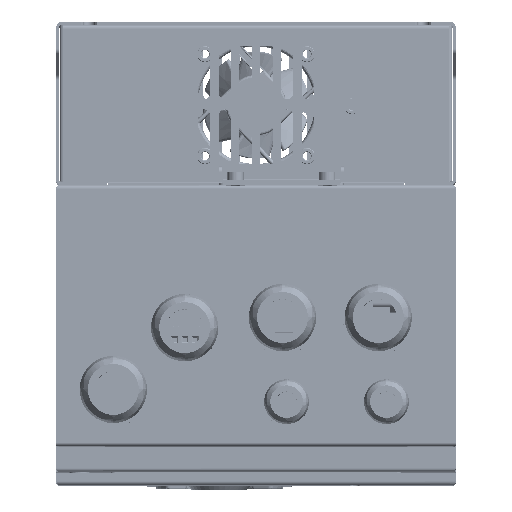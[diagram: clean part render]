
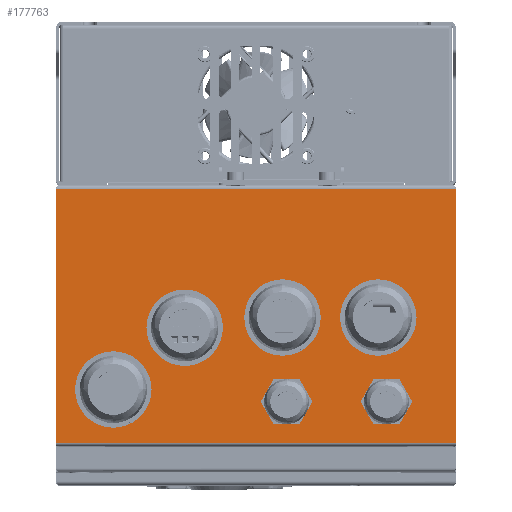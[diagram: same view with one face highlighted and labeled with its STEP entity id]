
A CAD part, top view. The second image highlights one B-rep face of the part: STEP entity #177763.
In plain terms, the highlighted planar face has unit normal (0, 0, 1) as drawn and (-1, 0, 0) by its records, which use the part's own axes.
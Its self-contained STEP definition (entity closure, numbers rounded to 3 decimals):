
#171769=CARTESIAN_POINT('',(-189.,1.7,-98.));
#171771=DIRECTION('',(0.,0.,1.));
#171772=VECTOR('',#171771,196.);
#171773=CARTESIAN_POINT('',(-189.,1.7,-98.));
#171774=LINE('',#171773,#171772);
#171775=CARTESIAN_POINT('',(-189.,1.7,98.));
#172211=DIRECTION('',(0.,0.,-1.));
#172212=VECTOR('',#172211,196.);
#172213=CARTESIAN_POINT('',(-189.,126.3,98.));
#172214=LINE('',#172213,#172212);
#172215=CARTESIAN_POINT('',(-189.,106.3,-15.));
#172216=DIRECTION('',(-1.,0.,0.));
#172217=DIRECTION('',(0.,0.,-1.));
#172218=AXIS2_PLACEMENT_3D('',#172215,#172216,#172217);
#172220=CARTESIAN_POINT('',(-189.,106.3,-15.));
#172221=DIRECTION('',(-1.,0.,0.));
#172222=DIRECTION('',(0.,0.,1.));
#172223=AXIS2_PLACEMENT_3D('',#172220,#172221,#172222);
#172225=CARTESIAN_POINT('',(-189.,106.3,-64.));
#172226=DIRECTION('',(-1.,0.,0.));
#172227=DIRECTION('',(0.,0.,-1.));
#172228=AXIS2_PLACEMENT_3D('',#172225,#172226,#172227);
#172230=CARTESIAN_POINT('',(-189.,106.3,-64.));
#172231=DIRECTION('',(-1.,0.,0.));
#172232=DIRECTION('',(0.,0.,1.));
#172233=AXIS2_PLACEMENT_3D('',#172230,#172231,#172232);
#172235=CARTESIAN_POINT('',(-189.,100.3,70.));
#172236=DIRECTION('',(-1.,0.,0.));
#172237=DIRECTION('',(0.,0.,-1.));
#172238=AXIS2_PLACEMENT_3D('',#172235,#172236,#172237);
#172240=CARTESIAN_POINT('',(-189.,100.3,70.));
#172241=DIRECTION('',(-1.,0.,0.));
#172242=DIRECTION('',(0.,0.,1.));
#172243=AXIS2_PLACEMENT_3D('',#172240,#172241,#172242);
#172245=CARTESIAN_POINT('',(-189.,65.,-13.));
#172246=DIRECTION('',(-1.,0.,0.));
#172247=DIRECTION('',(0.,0.,-1.));
#172248=AXIS2_PLACEMENT_3D('',#172245,#172246,#172247);
#172250=CARTESIAN_POINT('',(-189.,65.,-13.));
#172251=DIRECTION('',(-1.,0.,0.));
#172252=DIRECTION('',(0.,0.,1.));
#172253=AXIS2_PLACEMENT_3D('',#172250,#172251,#172252);
#172255=CARTESIAN_POINT('',(-189.,65.,-60.));
#172256=DIRECTION('',(-1.,0.,0.));
#172257=DIRECTION('',(0.,0.,-1.));
#172258=AXIS2_PLACEMENT_3D('',#172255,#172256,#172257);
#172260=CARTESIAN_POINT('',(-189.,65.,-60.));
#172261=DIRECTION('',(-1.,0.,0.));
#172262=DIRECTION('',(0.,0.,1.));
#172263=AXIS2_PLACEMENT_3D('',#172260,#172261,#172262);
#172265=CARTESIAN_POINT('',(-189.,70.,35.));
#172266=DIRECTION('',(-1.,0.,0.));
#172267=DIRECTION('',(0.,0.,-1.));
#172268=AXIS2_PLACEMENT_3D('',#172265,#172266,#172267);
#172270=CARTESIAN_POINT('',(-189.,70.,35.));
#172271=DIRECTION('',(-1.,0.,0.));
#172272=DIRECTION('',(0.,0.,1.));
#172273=AXIS2_PLACEMENT_3D('',#172270,#172271,#172272);
#172275=DIRECTION('',(0.,-1.,0.));
#172276=VECTOR('',#172275,124.6);
#172277=CARTESIAN_POINT('',(-189.,126.3,-98.));
#172278=LINE('',#172277,#172276);
#172305=DIRECTION('',(0.,1.,0.));
#172306=VECTOR('',#172305,124.6);
#172307=CARTESIAN_POINT('',(-189.,1.7,98.));
#172308=LINE('',#172307,#172306);
#175203=VERTEX_POINT('',#171775);
#175208=VERTEX_POINT('',#171769);
#175330=CARTESIAN_POINT('',(-189.,126.3,98.));
#175331=VERTEX_POINT('',#175330);
#175332=CARTESIAN_POINT('',(-189.,126.3,-98.));
#175333=VERTEX_POINT('',#175332);
#175334=CARTESIAN_POINT('',(-189.,106.3,-23.25));
#175335=CARTESIAN_POINT('',(-189.,106.3,-6.75));
#175336=VERTEX_POINT('',#175334);
#175337=VERTEX_POINT('',#175335);
#175338=CARTESIAN_POINT('',(-189.,106.3,-72.25));
#175339=CARTESIAN_POINT('',(-189.,106.3,-55.75));
#175340=VERTEX_POINT('',#175338);
#175341=VERTEX_POINT('',#175339);
#175342=CARTESIAN_POINT('',(-189.,100.3,57.25));
#175343=CARTESIAN_POINT('',(-189.,100.3,82.75));
#175344=VERTEX_POINT('',#175342);
#175345=VERTEX_POINT('',#175343);
#175346=CARTESIAN_POINT('',(-189.,65.,-25.75));
#175347=CARTESIAN_POINT('',(-189.,65.,-0.25));
#175348=VERTEX_POINT('',#175346);
#175349=VERTEX_POINT('',#175347);
#175350=CARTESIAN_POINT('',(-189.,65.,-72.75));
#175351=CARTESIAN_POINT('',(-189.,65.,-47.25));
#175352=VERTEX_POINT('',#175350);
#175353=VERTEX_POINT('',#175351);
#175354=CARTESIAN_POINT('',(-189.,70.,22.25));
#175355=CARTESIAN_POINT('',(-189.,70.,47.75));
#175356=VERTEX_POINT('',#175354);
#175357=VERTEX_POINT('',#175355);
#177714=CARTESIAN_POINT('',(-189.,0.,96.8));
#177715=DIRECTION('',(-1.,0.,0.));
#177716=DIRECTION('',(0.,0.,1.));
#177717=AXIS2_PLACEMENT_3D('',#177714,#177715,#177716);
#177718=PLANE('',#177717);
#177719=ORIENTED_EDGE('',*,*,#177083,.F.);
#177721=ORIENTED_EDGE('',*,*,#177720,.F.);
#177722=ORIENTED_EDGE('',*,*,#177707,.F.);
#177724=ORIENTED_EDGE('',*,*,#177723,.F.);
#177725=EDGE_LOOP('',(#177719,#177721,#177722,#177724));
#177726=FACE_OUTER_BOUND('',#177725,.F.);
#177728=ORIENTED_EDGE('',*,*,#177727,.T.);
#177730=ORIENTED_EDGE('',*,*,#177729,.T.);
#177731=EDGE_LOOP('',(#177728,#177730));
#177732=FACE_BOUND('',#177731,.F.);
#177734=ORIENTED_EDGE('',*,*,#177733,.T.);
#177736=ORIENTED_EDGE('',*,*,#177735,.T.);
#177737=EDGE_LOOP('',(#177734,#177736));
#177738=FACE_BOUND('',#177737,.F.);
#177740=ORIENTED_EDGE('',*,*,#177739,.T.);
#177742=ORIENTED_EDGE('',*,*,#177741,.T.);
#177743=EDGE_LOOP('',(#177740,#177742));
#177744=FACE_BOUND('',#177743,.F.);
#177746=ORIENTED_EDGE('',*,*,#177745,.T.);
#177748=ORIENTED_EDGE('',*,*,#177747,.T.);
#177749=EDGE_LOOP('',(#177746,#177748));
#177750=FACE_BOUND('',#177749,.F.);
#177752=ORIENTED_EDGE('',*,*,#177751,.T.);
#177754=ORIENTED_EDGE('',*,*,#177753,.T.);
#177755=EDGE_LOOP('',(#177752,#177754));
#177756=FACE_BOUND('',#177755,.F.);
#177758=ORIENTED_EDGE('',*,*,#177757,.T.);
#177760=ORIENTED_EDGE('',*,*,#177759,.T.);
#177761=EDGE_LOOP('',(#177758,#177760));
#177762=FACE_BOUND('',#177761,.F.);
#177763=ADVANCED_FACE('',(#177726,#177732,#177738,#177744,#177750,#177756,
#177762),#177718,.T.);
#172219=CIRCLE('',#172218,8.25);
#172224=CIRCLE('',#172223,8.25);
#172229=CIRCLE('',#172228,8.25);
#172234=CIRCLE('',#172233,8.25);
#172239=CIRCLE('',#172238,12.75);
#172244=CIRCLE('',#172243,12.75);
#172249=CIRCLE('',#172248,12.75);
#172254=CIRCLE('',#172253,12.75);
#172259=CIRCLE('',#172258,12.75);
#172264=CIRCLE('',#172263,12.75);
#172269=CIRCLE('',#172268,12.75);
#172274=CIRCLE('',#172273,12.75);
#177083=EDGE_CURVE('',#175208,#175203,#171774,.T.);
#177707=EDGE_CURVE('',#175331,#175333,#172214,.T.);
#177720=EDGE_CURVE('',#175333,#175208,#172278,.T.);
#177723=EDGE_CURVE('',#175203,#175331,#172308,.T.);
#177727=EDGE_CURVE('',#175336,#175337,#172219,.T.);
#177729=EDGE_CURVE('',#175337,#175336,#172224,.T.);
#177733=EDGE_CURVE('',#175340,#175341,#172229,.T.);
#177735=EDGE_CURVE('',#175341,#175340,#172234,.T.);
#177739=EDGE_CURVE('',#175344,#175345,#172239,.T.);
#177741=EDGE_CURVE('',#175345,#175344,#172244,.T.);
#177745=EDGE_CURVE('',#175348,#175349,#172249,.T.);
#177747=EDGE_CURVE('',#175349,#175348,#172254,.T.);
#177751=EDGE_CURVE('',#175352,#175353,#172259,.T.);
#177753=EDGE_CURVE('',#175353,#175352,#172264,.T.);
#177757=EDGE_CURVE('',#175356,#175357,#172269,.T.);
#177759=EDGE_CURVE('',#175357,#175356,#172274,.T.);
